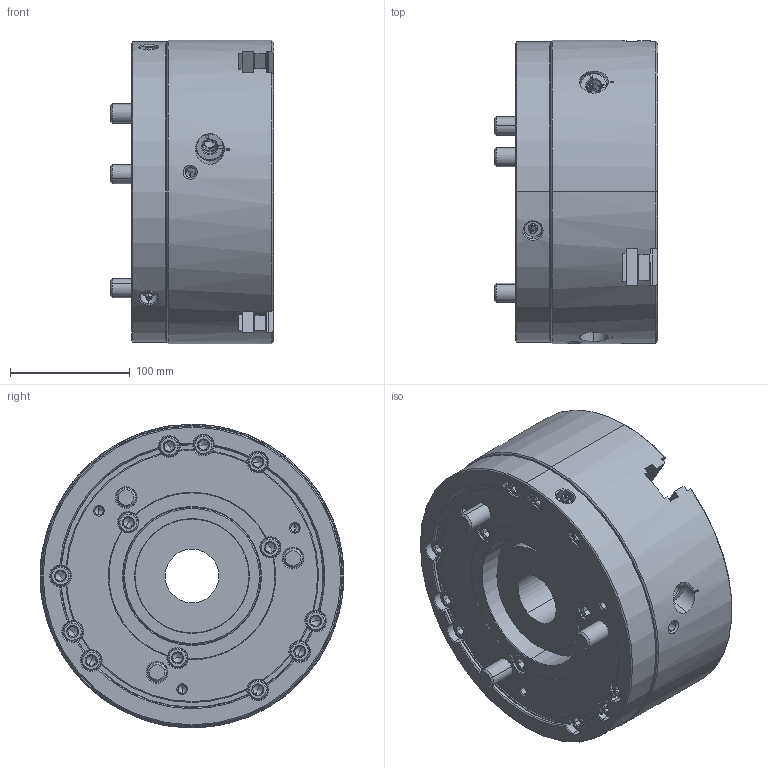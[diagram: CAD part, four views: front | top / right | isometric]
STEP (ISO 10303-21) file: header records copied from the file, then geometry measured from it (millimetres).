
FILE_DESCRIPTION (( 'STEP AP214' ), '1' );
FILE_NAME ('QJR10-00_UC.STEP', '2025-04-15T06:11:37', ( '' ), ( '' ), 'SwSTEP 2.0', 'SolidWorks 2022', '' );
FILE_SCHEMA (( 'AUTOMOTIVE_DESIGN' ));
Length unit declared in the file: millimetre
Products named in the file (3): Copy of 61P804777^QJR10-00_61P263142; Part10^QJR10-00_61P263142; QJR10-00_UC
Assembly tree (2 placements, depth 2):
  QJR10-00_UC
    Copy of 61P804777^QJR10-00_61P263142
    Part10^QJR10-00_61P263142
Bounding box: 137 x 254 x 254 mm (x, y, z)
Volume: 4948465.3 mm3; surface area: 374311.2 mm2
Topology: 2 solids, 24 shells, 1681 faces, 4319 edges, 2729 vertices
Faces by surface type: plane 692, cone 440, cylinder 336, bspline 159, torus 48, sphere 6
Entity records: 66704 total; most frequent: CARTESIAN_POINT 27165, ORIENTED_EDGE 8486, DIRECTION 7562, EDGE_CURVE 4243, AXIS2_PLACEMENT_3D 2804, VERTEX_POINT 2729, LINE 1954, VECTOR 1954
